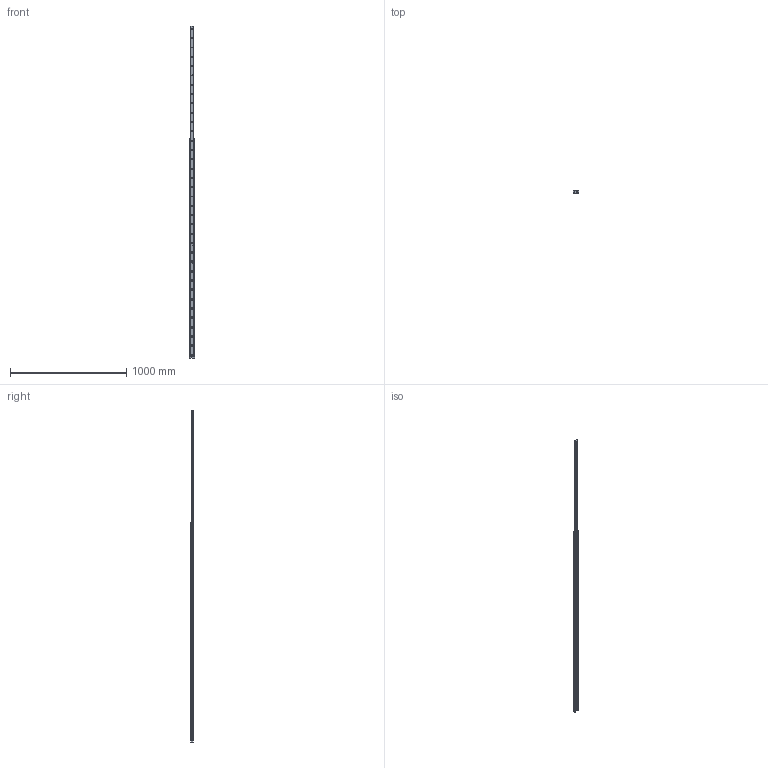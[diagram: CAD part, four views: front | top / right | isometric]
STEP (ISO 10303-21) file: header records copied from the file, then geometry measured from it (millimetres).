
FILE_DESCRIPTION(('STEP AP214'),'1');
FILE_NAME('rail_asn43-1890_01.stp','2017-06-06T10:17:31',('TraceParts'),('TraceParts S.A.'),'Spatial InterOp 3D',' ',' ');
FILE_SCHEMA(('automotive_design'));
Length unit declared in the file: millimetre
Products named in the file (2): rail_asn43-1890_01_1; rail_asn43-1890_01_2
Bounding box: 43 x 22.01 x 2853 mm (x, y, z)
Volume: 1150302.5 mm3; surface area: 444359.9 mm2
Topology: 2 solids, 2 shells, 317 faces, 780 edges, 472 vertices
Faces by surface type: cone 144, cylinder 127, plane 46
Entity records: 9582 total; most frequent: DIRECTION 1816, CARTESIAN_POINT 1571, ORIENTED_EDGE 1560, EDGE_CURVE 780, AXIS2_PLACEMENT_3D 717, VERTEX_POINT 472, EDGE_LOOP 418, CIRCLE 398
